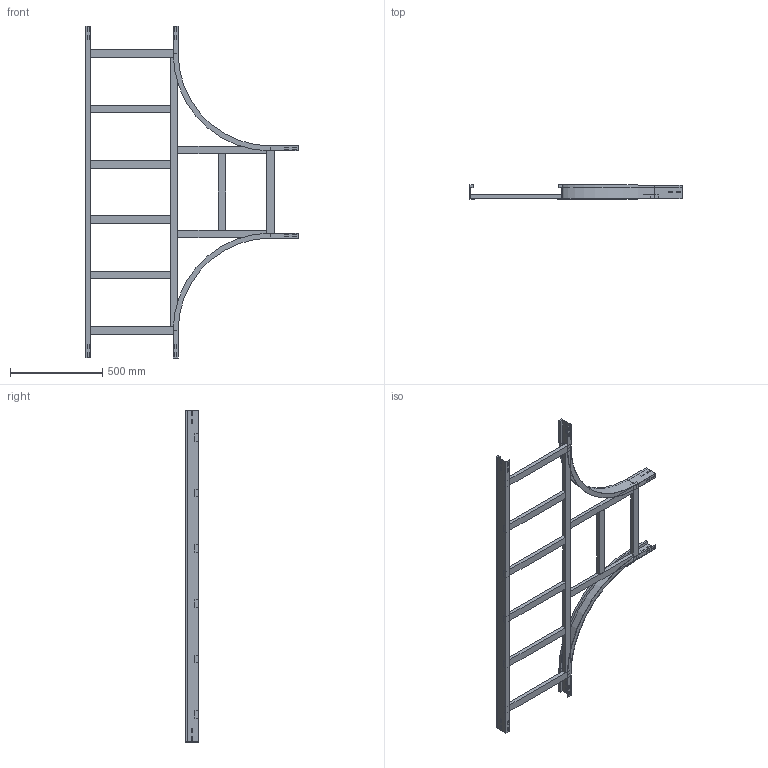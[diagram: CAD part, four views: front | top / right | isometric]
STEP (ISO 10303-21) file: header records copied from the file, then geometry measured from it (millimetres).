
FILE_DESCRIPTION (( 'STEP AP214' ), '1' );
FILE_NAME ('15B5C500.step', '2025-02-21T15:52:39', ( '' ), ( '' ), 'SwSTEP 2.0', 'SolidWorks 2023', '' );
FILE_SCHEMA (( 'AUTOMOTIVE_DESIGN' ));
Length unit declared in the file: millimetre
Products named in the file (8): LONGH.RETT_H75_R500+500; 15B5C500; LONGH.INTERNO 90°_H75_R500; TRAVERSINO_500; TRAVERSINO_VERT_R500; TRAVERSINO_LONG._R500+500; TRAVERSINO_INTERMEDIO_R500+500; TRAVERSINO_COPPIA_500
Assembly tree (14 placements, depth 2):
  15B5C500
    LONGH.INTERNO 90°_H75_R500  x2
    LONGH.RETT_H75_R500+500
    TRAVERSINO_500  x3
    TRAVERSINO_LONG._R500+500
    TRAVERSINO_INTERMEDIO_R500+500  x4
    TRAVERSINO_VERT_R500  x2
    TRAVERSINO_COPPIA_500
Bounding box: 1150 x 75 x 1800 mm (x, y, z)
Volume: 6537820.9 mm3; surface area: 1701107 mm2
Topology: 14 solids, 14 shells, 224 faces, 556 edges, 360 vertices
Faces by surface type: plane 216, cylinder 8
Entity records: 4209 total; most frequent: CARTESIAN_POINT 695, ORIENTED_EDGE 664, DIRECTION 634, EDGE_CURVE 332, LINE 324, VECTOR 324, VERTEX_POINT 216, EDGE_LOOP 162
